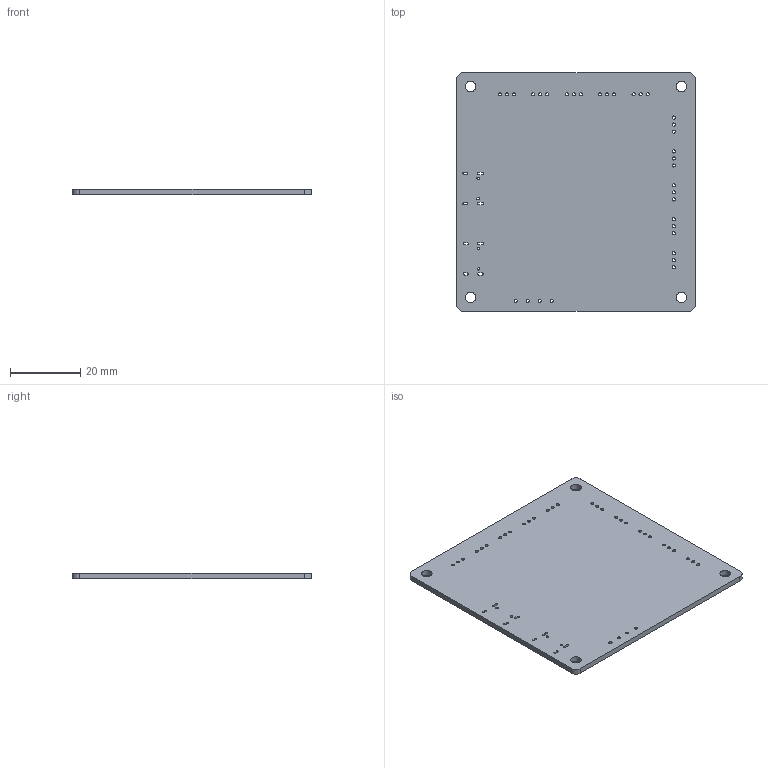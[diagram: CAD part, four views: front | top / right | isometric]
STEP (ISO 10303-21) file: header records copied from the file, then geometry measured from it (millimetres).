
FILE_DESCRIPTION(('Designed by EasyEDA Pro'),'2;1');
FILE_NAME('Open CASCADE Shape Model','2024-05-15T17:02:37',('Author'),( 'Open CASCADE'),'Open CASCADE STEP processor 7.8','Open CASCADE 7.8' ,'Unknown');
FILE_SCHEMA(('AUTOMOTIVE_DESIGN { 1 0 10303 214 1 1 1 1 }'));
Length unit declared in the file: millimetre
Products named in the file (2): PCBModel; Board
Assembly tree (1 placements, depth 2):
  PCBModel
    Board
Bounding box: 67.97 x 67.97 x 1.6 mm (x, y, z)
Volume: 7293.5 mm3; surface area: 9823.9 mm2
Topology: 1 solids, 1 shells, 84 faces, 246 edges, 164 vertices
Faces by surface type: cylinder 62, plane 22
Full cylindrical faces by diameter (mm): 0.65 x2, 0.75 x2, 0.9 x30, 0.914 x4, 3 x4
Entity records: 3668 total; most frequent: DIRECTION 542, CARTESIAN_POINT 496, ORIENTED_EDGE 492, EDGE_CURVE 246, AXIS2_PLACEMENT_3D 210, FACE_BOUND 184, EDGE_LOOP 184, VERTEX_POINT 164
